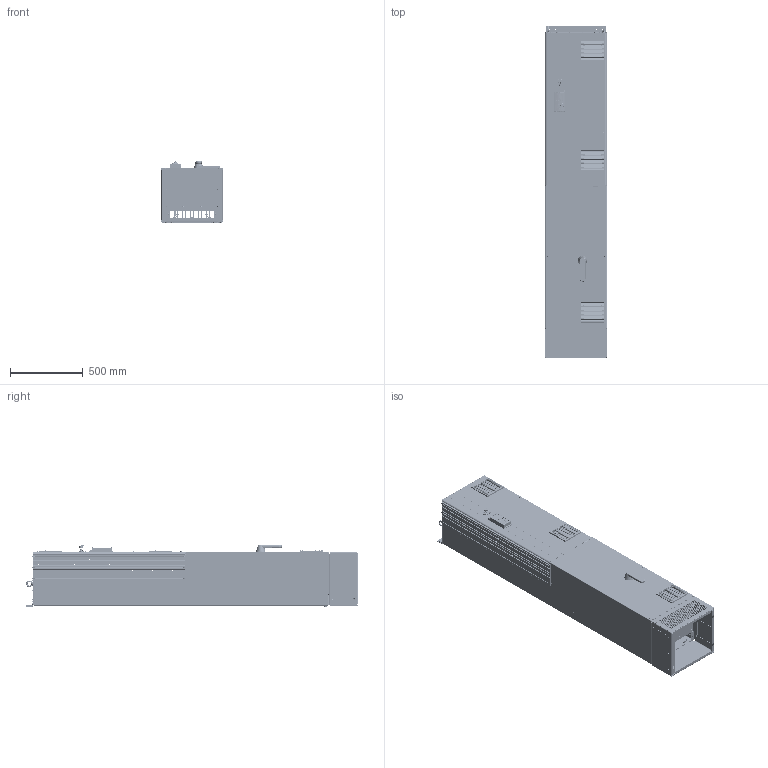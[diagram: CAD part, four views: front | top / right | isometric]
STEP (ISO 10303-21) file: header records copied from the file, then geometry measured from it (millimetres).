
FILE_DESCRIPTION((''),'2;1');
FILE_NAME('P454-1042_ASM','2014-08-05T',('U251643'),('Danfoss Power Electronics'),'PRO/ENGINEER BY PARAMETRIC TECHNOLOGY CORPORATION, 2013050','PRO/ENGINEER BY PARAMETRIC TECHNOLOGY CORPORATION, 2013050','');
FILE_SCHEMA(('CONFIG_CONTROL_DESIGN','GEOMETRIC_VALIDATION_PROPERTIES_MIM'));
Products named in the file (207): 177G6034; FH-M5-12-ZI; FH-M8-20-ZI; SS-M5-2-ZI; S-M10-1-ZI; 177G6034_ASM; 177G6090; TPS-5MM-10; 177G6090_ASM; 177G6079; PEM_N10-M5-1-ZI; 177G6079_ASM; 177G5941; 177G5940; 26513; P454-1198_ASM; 177G6036; FH-M5-10-ZI; FH-M5-8-ZI; FH-M8-15-ZI; HFH-M10-20-ZI; 177G6036_ASM; 177G6028; SS-M5-1-ZI; 177G6028_ASM; 177G6029; 177G6029_ASM; SF-5-16-ZI; 177G6035_ASM; 177G5925; 681X9143; 26516; 177G6690; 177G6690_ASM; 177G6691; 177G3998; 177G3998_ASM; 177G5899; FH-M5-15-ZI; HFH-M10-35-ZI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
Assembly tree (745 placements, depth 6):
  P454-1042_ASM
    177G6034_ASM
      177G6034
      FH-M5-12-ZI  x25
      FH-M8-20-ZI  x2
      SS-M5-2-ZI  x30
      S-M10-1-ZI  x2
    P454-1198_ASM
      177G6090_ASM
        177G6090
        FH-M5-12-ZI  x2
        SS-M5-2-ZI  x2
        TPS-5MM-10  x2
      177G6079_ASM
        177G6079
        PEM_N10-M5-1-ZI
      177G5941
      177G5940
      26513  x2
    26513  x46
    177G6035_ASM
      177G6036_ASM
        177G6036
        FH-M5-10-ZI  x9
        FH-M5-8-ZI  x5
        FH-M5-12-ZI  x3
        FH-M8-15-ZI  x2
        SS-M5-2-ZI  x6
        HFH-M10-20-ZI  x4
      177G6028_ASM
        177G6028
        SS-M5-1-ZI
      177G6029_ASM
        177G6029
        SS-M5-1-ZI
      SF-5-16-ZI  x4
    177G5925  x2
    681X9143  x35
    26516  x6
    177G6690_ASM
      177G6690
    177G6691
    177G3998_ASM
      177G3998
    177G5899_ASM  x3
      177G5899
      FH-M5-15-ZI
      HFH-M10-35-ZI
    177A0062
    177G4265
    177A0064
    177A0076
    177G5919_ASM
      177G5919
      HFH-M10-35-ZI
    177G5900_ASM
      177G5900
      HFH-M10-35-ZI
    P454-1165_ASM
      177G6075_ASM
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Bounding box: 424.6 x 2283.5 x 421.57 mm (x, y, z)
Volume: 23802578.7 mm3; surface area: 15928389.1 mm2
Topology: 720 solids, 778 shells, 35976 faces, 94391 edges, 60729 vertices
Faces by surface type: plane 21931, cylinder 8464, bspline 2197, cone 1728, torus 1249, sphere 191, revolution 172, extrusion 44
Entity records: 824787 total; most frequent: CARTESIAN_POINT 181793, ORIENTED_EDGE 108176, DIRECTION 101369, EDGE_CURVE 54575, VECTOR 39255, LINE 39227, PRESENTATION_STYLE_ASSIGNMENT 37762, STYLED_ITEM 37627
